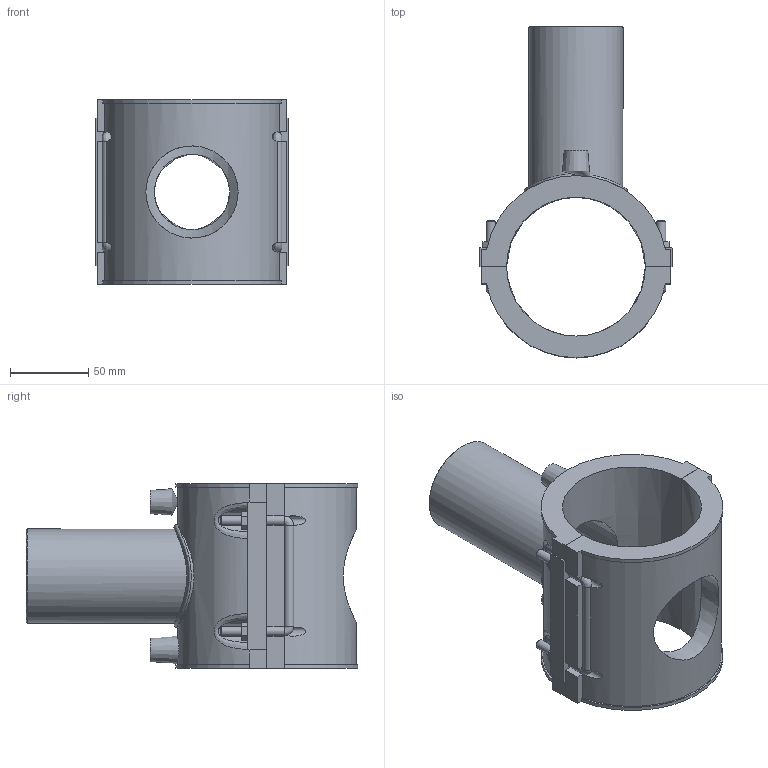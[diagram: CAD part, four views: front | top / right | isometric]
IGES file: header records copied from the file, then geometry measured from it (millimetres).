
Global section: file name: 5958BB03030020.ipt; native system: Autodesk Inventor 2019; preprocessor: unknown; author: KIM; date: 20210830.101240; units: inch
Bounding box: 122.9 x 212.01 x 118.11 mm (x, y, z)
Volume: 548726.9 mm3; surface area: 130518.1 mm2
Topology: 2 solids, 2 shells, 149 faces, 378 edges, 246 vertices
Faces by surface type: plane 95, cylinder 24, revolution 18, cone 7, bspline 5
Full cylindrical faces by diameter (mm): 4 x2, 6 x8, 60.1 x1, 66.11 x1
